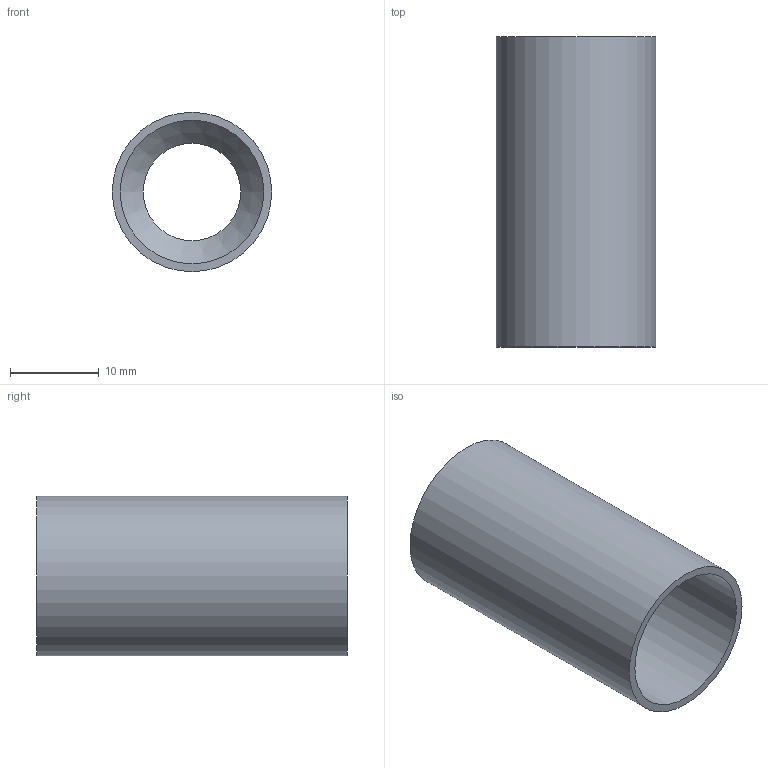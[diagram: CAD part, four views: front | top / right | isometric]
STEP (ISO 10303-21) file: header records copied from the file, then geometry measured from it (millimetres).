
FILE_DESCRIPTION(/* description */ (''),/* implementation_level */ '2;1');
FILE_NAME(/* name */ 'P:\Adapter\Schweißstutzen und Schweißadapter\A 18A_16I.stp',/* time_stamp */ '2019-04-01T13:01:50+02:00',/* author */ ('neufeld'),/* organization */ (''),/* preprocessor_version */ 'ST-DEVELOPER v17',/* originating_system */ 'Autodesk Inventor 2019',/* authorisation */ '');
FILE_SCHEMA (('AUTOMOTIVE_DESIGN { 1 0 10303 214 3 1 1 }'));
Length unit declared in the file: millimetre
Products named in the file (1): A 18A_16I
Bounding box: 18 x 35 x 18 mm (x, y, z)
Volume: 3552.9 mm3; surface area: 3731.1 mm2
Topology: 1 solids, 1 shells, 10 faces, 28 edges, 20 vertices
Faces by surface type: cylinder 5, cone 3, plane 2
Full cylindrical faces by diameter (mm): 11 x1, 12.2 x1, 12.9 x1, 16.2 x1, 18 x1
Entity records: 387 total; most frequent: DIRECTION 70, CARTESIAN_POINT 59, ORIENTED_EDGE 56, AXIS2_PLACEMENT_3D 31, EDGE_CURVE 28, CIRCLE 20, VERTEX_POINT 20, EDGE_LOOP 12
